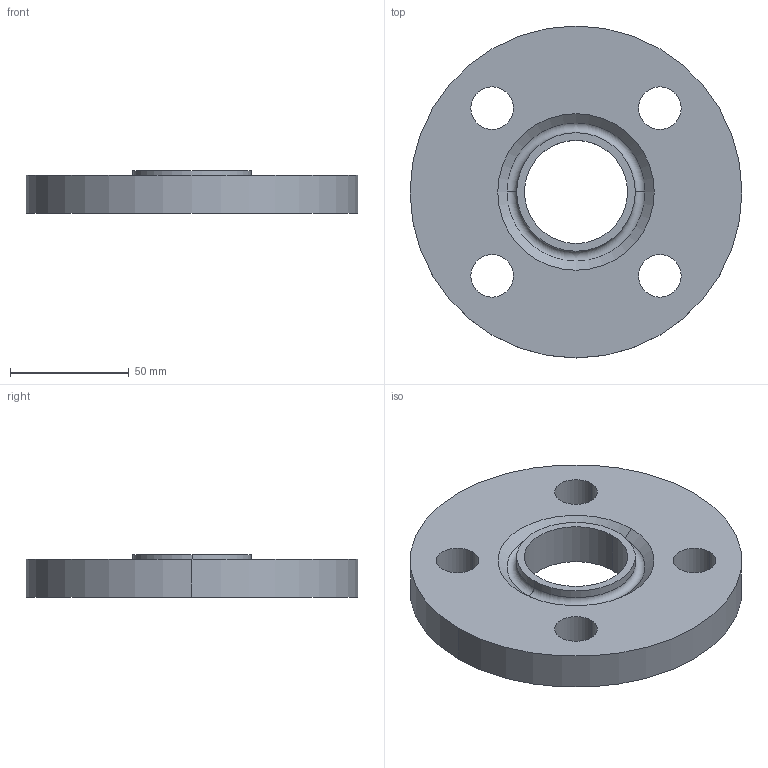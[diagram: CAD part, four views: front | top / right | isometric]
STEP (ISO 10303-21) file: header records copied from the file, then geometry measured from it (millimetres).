
FILE_DESCRIPTION (( 'STEP AP214' ), '1' );
FILE_NAME ('PN40 DN32 Type 01 - Type H Face.STEP', '2018-12-30T00:08:23', ( '' ), ( '' ), 'SwSTEP 2.0', 'SolidWorks 2019', '' );
FILE_SCHEMA (( 'AUTOMOTIVE_DESIGN' ));
Length unit declared in the file: millimetre
Products named in the file (1): PN40 DN32 Type 01 - Type H Face
Bounding box: 140 x 140 x 18 mm (x, y, z)
Volume: 203397.1 mm3; surface area: 39948.2 mm2
Topology: 1 solids, 1 shells, 21 faces, 50 edges, 32 vertices
Faces by surface type: cylinder 14, plane 3, torus 2, cone 2
Entity records: 680 total; most frequent: DIRECTION 128, CARTESIAN_POINT 104, ORIENTED_EDGE 100, AXIS2_PLACEMENT_3D 56, EDGE_CURVE 50, CIRCLE 34, EDGE_LOOP 32, VERTEX_POINT 32
